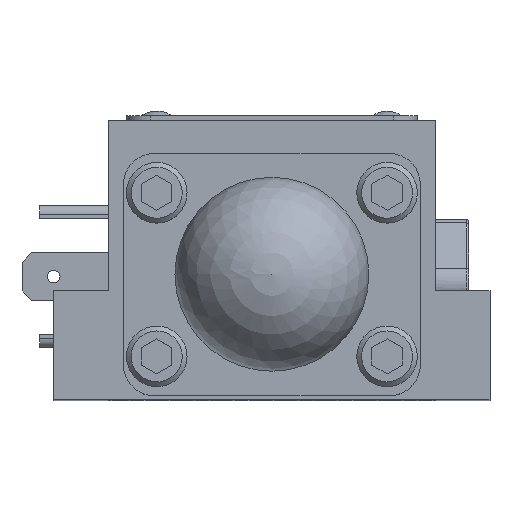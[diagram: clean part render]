
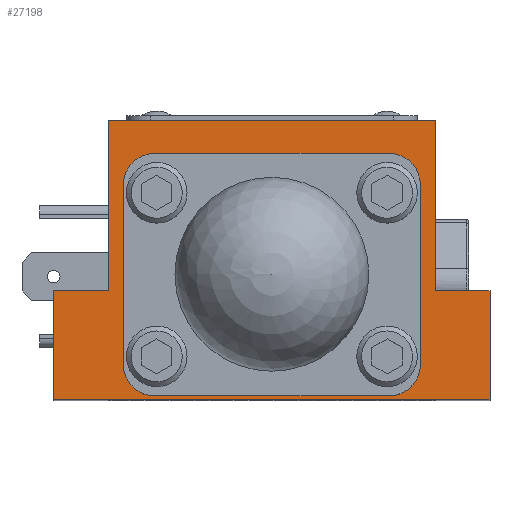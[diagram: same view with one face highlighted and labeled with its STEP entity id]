
A CAD part, top view. The second image highlights one B-rep face of the part: STEP entity #27198.
In plain terms, the highlighted planar face has unit normal (0, 0, 1).
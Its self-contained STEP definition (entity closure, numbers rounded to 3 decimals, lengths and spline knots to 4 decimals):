
#444=FACE_BOUND('',#5099,.T.);
#1204=CIRCLE('',#28431,0.4064);
#1206=CIRCLE('',#28435,0.4064);
#1208=CIRCLE('',#28439,0.4064);
#1210=CIRCLE('',#28443,0.4064);
#3422=FACE_OUTER_BOUND('',#5098,.T.);
#5098=EDGE_LOOP('',(#21098,#21099,#21100,#21101,#21102,#21103,#21104,#21105));
#5099=EDGE_LOOP('',(#21106,#21107,#21108,#21109,#21110,#21111,#21112,#21113));
#6339=LINE('',#40667,#8252);
#6343=LINE('',#40679,#8256);
#6347=LINE('',#40691,#8260);
#6351=LINE('',#40703,#8264);
#7065=LINE('',#43641,#8978);
#7069=LINE('',#43671,#8982);
#7080=LINE('',#43695,#8993);
#7084=LINE('',#43703,#8997);
#7087=LINE('',#43716,#9000);
#7095=LINE('',#43739,#9008);
#7102=LINE('',#43752,#9015);
#7195=LINE('',#44597,#9108);
#8252=VECTOR('',#32451,1.);
#8256=VECTOR('',#32463,1.);
#8260=VECTOR('',#32475,1.);
#8264=VECTOR('',#32487,1.);
#8978=VECTOR('',#35075,1.);
#8982=VECTOR('',#35103,1.);
#8993=VECTOR('',#35120,1.);
#8997=VECTOR('',#35126,1.);
#9000=VECTOR('',#35139,1.);
#9008=VECTOR('',#35159,1.);
#9015=VECTOR('',#35170,1.);
#9108=VECTOR('',#35697,1.);
#10693=VERTEX_POINT('',#40663);
#10695=VERTEX_POINT('',#40666);
#10697=VERTEX_POINT('',#40672);
#10699=VERTEX_POINT('',#40678);
#10701=VERTEX_POINT('',#40684);
#10703=VERTEX_POINT('',#40690);
#10705=VERTEX_POINT('',#40696);
#10707=VERTEX_POINT('',#40702);
#11483=VERTEX_POINT('',#43639);
#11484=VERTEX_POINT('',#43640);
#11498=VERTEX_POINT('',#43670);
#11508=VERTEX_POINT('',#43694);
#11511=VERTEX_POINT('',#43702);
#11516=VERTEX_POINT('',#43715);
#11525=VERTEX_POINT('',#43738);
#11529=VERTEX_POINT('',#43750);
#13429=EDGE_CURVE('',#10695,#10693,#6339,.T.);
#13432=EDGE_CURVE('',#10697,#10695,#1204,.T.);
#13435=EDGE_CURVE('',#10699,#10697,#6343,.T.);
#13438=EDGE_CURVE('',#10701,#10699,#1206,.T.);
#13441=EDGE_CURVE('',#10703,#10701,#6347,.T.);
#13444=EDGE_CURVE('',#10705,#10703,#1208,.T.);
#13447=EDGE_CURVE('',#10707,#10705,#6351,.T.);
#13450=EDGE_CURVE('',#10693,#10707,#1210,.T.);
#14671=EDGE_CURVE('',#11483,#11484,#7065,.T.);
#14686=EDGE_CURVE('',#11498,#11483,#7069,.T.);
#14697=EDGE_CURVE('',#11484,#11508,#7080,.T.);
#14701=EDGE_CURVE('',#11508,#11511,#7084,.T.);
#14708=EDGE_CURVE('',#11516,#11498,#7087,.T.);
#14720=EDGE_CURVE('',#11511,#11525,#7095,.T.);
#14727=EDGE_CURVE('',#11529,#11516,#7102,.T.);
#14949=EDGE_CURVE('',#11525,#11529,#7195,.T.);
#21098=ORIENTED_EDGE('',*,*,#14697,.F.);
#21099=ORIENTED_EDGE('',*,*,#14671,.F.);
#21100=ORIENTED_EDGE('',*,*,#14686,.F.);
#21101=ORIENTED_EDGE('',*,*,#14708,.F.);
#21102=ORIENTED_EDGE('',*,*,#14727,.F.);
#21103=ORIENTED_EDGE('',*,*,#14949,.F.);
#21104=ORIENTED_EDGE('',*,*,#14720,.F.);
#21105=ORIENTED_EDGE('',*,*,#14701,.F.);
#21106=ORIENTED_EDGE('',*,*,#13450,.T.);
#21107=ORIENTED_EDGE('',*,*,#13447,.T.);
#21108=ORIENTED_EDGE('',*,*,#13444,.T.);
#21109=ORIENTED_EDGE('',*,*,#13441,.T.);
#21110=ORIENTED_EDGE('',*,*,#13438,.T.);
#21111=ORIENTED_EDGE('',*,*,#13435,.T.);
#21112=ORIENTED_EDGE('',*,*,#13432,.T.);
#21113=ORIENTED_EDGE('',*,*,#13429,.T.);
#24498=PLANE('',#29624);
#27198=ADVANCED_FACE('',(#3422,#444),#24498,.T.);
#28431=AXIS2_PLACEMENT_3D('',#40673,#32456,#32457);
#28435=AXIS2_PLACEMENT_3D('',#40685,#32468,#32469);
#28439=AXIS2_PLACEMENT_3D('',#40697,#32480,#32481);
#28443=AXIS2_PLACEMENT_3D('',#40708,#32492,#32493);
#29624=AXIS2_PLACEMENT_3D('',#44596,#35695,#35696);
#32451=DIRECTION('',(1.,0.,0.));
#32456=DIRECTION('center_axis',(0.,0.,
-1.));
#32457=DIRECTION('ref_axis',(0.,-1.,0.));
#32463=DIRECTION('',(0.,1.,0.));
#32468=DIRECTION('center_axis',(0.,0.,
-1.));
#32469=DIRECTION('ref_axis',(1.,0.,0.));
#32475=DIRECTION('',(-1.,0.,0.));
#32480=DIRECTION('center_axis',(0.,0.,
-1.));
#32481=DIRECTION('ref_axis',(0.,1.,0.));
#32487=DIRECTION('',(0.,-1.,0.));
#32492=DIRECTION('center_axis',(0.,0.,
-1.));
#32493=DIRECTION('ref_axis',(-1.,0.,0.));
#35075=DIRECTION('',(-1.,0.,0.));
#35103=DIRECTION('',(0.,-1.,0.));
#35120=DIRECTION('',(0.,1.,0.));
#35126=DIRECTION('',(1.,0.,0.));
#35139=DIRECTION('',(1.,0.,0.));
#35159=DIRECTION('',(0.,1.,0.));
#35170=DIRECTION('',(0.,-1.,0.));
#35695=DIRECTION('center_axis',(0.,0.,1.));
#35696=DIRECTION('ref_axis',(1.,0.,0.));
#35697=DIRECTION('',(1.,0.,0.));
#40663=CARTESIAN_POINT('',(1.538,1.5875,4.7104));
#40666=CARTESIAN_POINT('',(-1.538,1.5875,4.7104));
#40667=CARTESIAN_POINT('',(-1.538,1.5875,4.7104));
#40672=CARTESIAN_POINT('',(-1.9444,1.1811,4.7104));
#40673=CARTESIAN_POINT('Origin',(-1.538,1.1811,4.7104));
#40678=CARTESIAN_POINT('',(-1.9444,-1.1811,4.7104));
#40679=CARTESIAN_POINT('',(-1.9444,-1.1811,4.7104));
#40684=CARTESIAN_POINT('',(-1.538,-1.5875,4.7104));
#40685=CARTESIAN_POINT('Origin',(-1.538,-1.1811,4.7104));
#40690=CARTESIAN_POINT('',(1.538,-1.5875,4.7104));
#40691=CARTESIAN_POINT('',(1.538,-1.5875,4.7104));
#40696=CARTESIAN_POINT('',(1.9444,-1.1811,4.7104));
#40697=CARTESIAN_POINT('Origin',(1.538,-1.1811,4.7104));
#40702=CARTESIAN_POINT('',(1.9444,1.1811,4.7104));
#40703=CARTESIAN_POINT('',(1.9444,1.1811,4.7104));
#40708=CARTESIAN_POINT('Origin',(1.538,1.1811,4.7104));
#43639=CARTESIAN_POINT('',(2.8575,-1.6358,4.7104));
#43640=CARTESIAN_POINT('',(-2.8575,-1.6358,4.7104));
#43641=CARTESIAN_POINT('',(-2.8575,-1.6358,4.7104));
#43670=CARTESIAN_POINT('',(2.8575,-0.207,4.7104));
#43671=CARTESIAN_POINT('',(2.8575,-1.6358,4.7104));
#43694=CARTESIAN_POINT('',(-2.8575,-0.207,4.7104));
#43695=CARTESIAN_POINT('',(-2.8575,-0.207,4.7104));
#43702=CARTESIAN_POINT('',(-2.1431,-0.207,4.7104));
#43703=CARTESIAN_POINT('',(-2.1431,-0.207,4.7104));
#43715=CARTESIAN_POINT('',(2.1431,-0.207,4.7104));
#43716=CARTESIAN_POINT('',(2.8575,-0.207,4.7104));
#43738=CARTESIAN_POINT('',(-2.1431,2.0155,4.7104));
#43739=CARTESIAN_POINT('',(-2.1431,2.0155,4.7104));
#43750=CARTESIAN_POINT('',(2.1431,2.0155,4.7104));
#43752=CARTESIAN_POINT('',(2.1431,-0.207,4.7104));
#44596=CARTESIAN_POINT('Origin',(0.,0.0204,4.7104));
#44597=CARTESIAN_POINT('',(2.1431,2.0155,4.7104));
